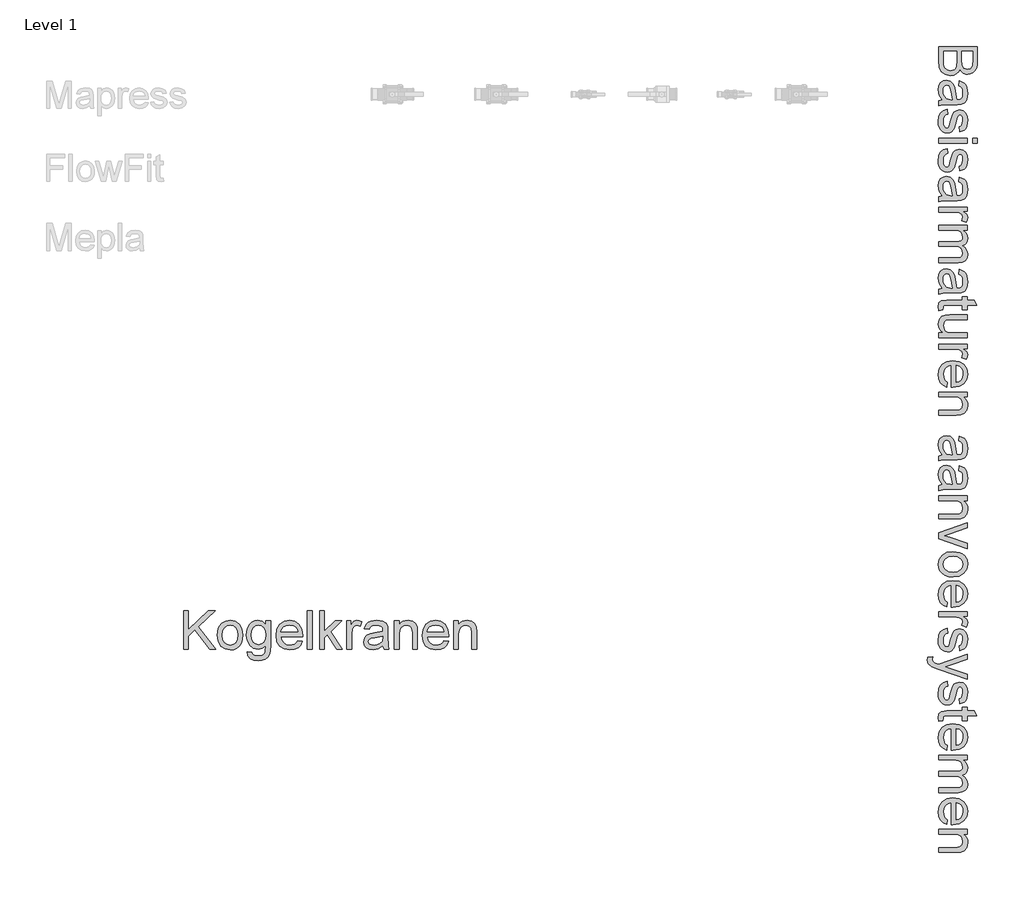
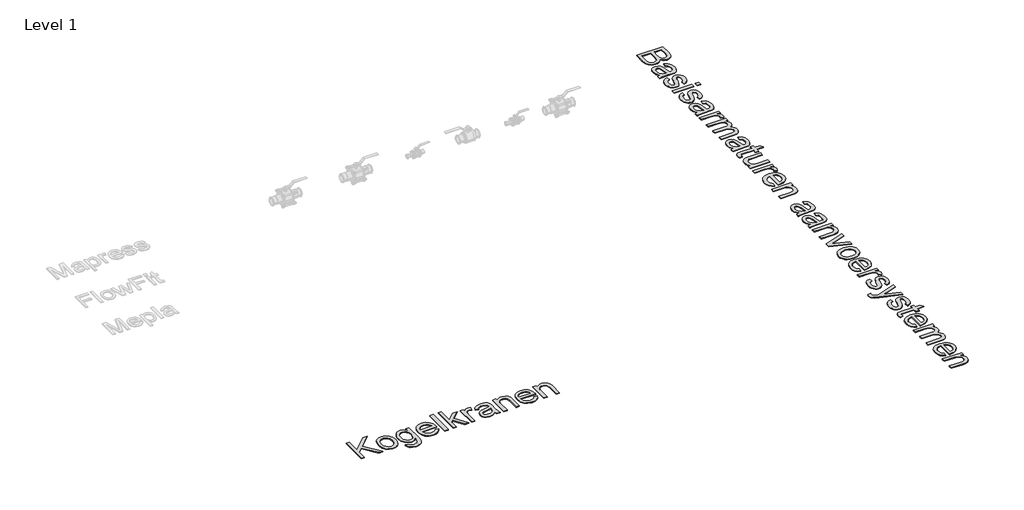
# One storey, part 3 of 4: 2 proxies.
"""IFC4 building model written with IfcOpenShell, lengths in millimetres."""

from ifc_helpers import new_model, si_unit, origin, origin_with_axes, place, context, project, spatial, polyline, outline, extrude, element, save

model = new_model("IFC4")

# Units and contexts
model_context = context("Model", 3, world=origin())
ifc_project = project(units=[si_unit("LENGTHUNIT", "METRE", prefix="MILLI")], contexts=[model_context])

# Site, building, storey
site = spatial("IfcSite", under=ifc_project)
building = spatial("IfcBuilding", under=site)
storey = spatial("IfcBuildingStorey", under=building, Name="Level 1", Elevation=0.0)

# Proxies
placement = place(None, origin())
element("IfcBuildingElementProxy", 1, Name="medium", ObjectType="medium", at=placement, inside=storey, context=model_context, shape_type="SweptSolid", body=[
    extrude(outline(polyline([(7081.8489506, 6039.1098786), (7282.7615709, 6039.1098786), (7282.7615709, 5962.4432708), (7281.2839116, 5941.3575011), (7276.8509335, 5924.8947818), (7269.3522722, 5912.2764294), (7258.677563, 5902.7237602), (7246.1205242, 5896.7088896), (7232.9748742, 5894.7039328), (7220.877688, 5896.3900586), (7209.504003, 5901.448436), (7199.552795, 5909.9158533), (7191.7230399, 5921.8290985), (7184.2918235, 5907.5981967), (7172.9855836, 5897.082903), (7158.5523466, 5890.5897858), (7141.7401394, 5888.4254134), (7114.737601, 5894.3360508), (7095.5096354, 5908.9777542), (7085.3070414, 5930.8299447), (7081.8489506, 5963.031882), (7081.8489506, 6039.1098786)]), holes=[polyline([(7106.9630282, 6013.9958011), (7106.9630282, 5962.4923217), (7107.9440468, 5943.8529673), (7113.4132258, 5928.0830924), (7124.572313, 5917.6352438), (7141.4948848, 5913.5394909), (7161.017156, 5918.3464823), (7168.0743589, 5924.6433958), (7172.6667525, 5933.9201534), (7176.0267414, 5964.9448684), (7176.0267414, 6013.9958011), (7106.9630282, 6013.9958011)]), polyline([(7201.1408189, 6013.9958011), (7201.1408189, 5968.133179), (7203.29906, 5941.3513697), (7212.5942117, 5925.2381384), (7228.9526978, 5919.8180103), (7245.3357093, 5924.8702564), (7255.0232685, 5939.3402815), (7257.6474934, 5971.6157952), (7257.6474934, 6013.9958011), (7201.1408189, 6013.9958011)])]), origin_with_axes(), (0.0, 0.0, 1.0), 5.0),
    extrude(outline(polyline([(7100.6845088, 5762.8550257), (7083.6638351, 5787.2088138), (7078.7096909, 5814.1132503), (7081.6895351, 5835.1009182), (7090.6290676, 5850.5826188), (7104.2039132, 5860.1291566), (7121.0896968, 5863.3113358), (7140.9553245, 5858.5043444), (7155.3762987, 5845.8737293), (7163.6168554, 5828.2889699), (7167.3937772, 5806.5594067), (7176.0267414, 5763.0021785), (7181.6185477, 5762.8550257), (7192.8266858, 5764.5840711), (7200.1598003, 5769.7712072), (7205.6044538, 5781.3717528), (7207.4193383, 5797.5340351), (7206.2114591, 5812.4945696), (7202.5878214, 5822.9424182), (7195.8862378, 5830.0670662), (7185.4445205, 5835.0579986), (7188.5837802, 5860.1720761), (7213.1092465, 5849.3072945), (7221.3620659, 5840.048931), (7227.4811698, 5827.4305786), (7232.5334159, 5794.2966735), (7228.069781, 5763.8605698), (7216.8616429, 5746.6682179), (7199.8164437, 5738.9672215), (7177.8416259, 5737.7409481), (7146.5961818, 5737.7409481), (7102.9653771, 5736.4656239), (7081.8489506, 5731.4624288), (7081.8489506, 5756.5765063), (7100.6845088, 5762.8550257)]), holes=[polyline([(7150.9126639, 5762.8550257), (7143.2116674, 5803.3710961), (7139.14044, 5824.9780319), (7132.5185641, 5834.763693), (7122.8555304, 5838.1972583), (7115.3875259, 5836.3271915), (7109.268422, 5830.7169911), (7105.1849319, 5821.4892843), (7103.8237685, 5808.7666987), (7105.3259533, 5795.2776922), (7109.8325077, 5783.3583155), (7124.3761093, 5766.975304), (7143.8002786, 5763.0021785), (7150.9126639, 5762.8550257)])]), origin_with_axes(), (0.0, 0.0, 1.0), 5.0),
    extrude(outline(polyline([(7125.7985863, 5712.6268706), (7128.937846, 5687.5127931), (7118.1956917, 5683.5519303), (7110.2984916, 5675.887722), (7105.4424492, 5664.4711174), (7103.8237685, 5649.2530656), (7105.3075592, 5634.2189547), (7109.7589313, 5623.6484787), (7116.209129, 5617.3944848), (7123.6893962, 5615.3098202), (7130.0905429, 5617.4067475), (7134.9711107, 5623.6975296), (7142.1325469, 5649.5473712), (7154.4198055, 5687.3656403), (7160.5940917, 5696.9367035), (7168.7672034, 5703.8712791), (7189.0252386, 5709.4876109), (7207.7381694, 5704.9749251), (7222.0365163, 5692.663141), (7229.4677326, 5676.6970624), (7232.5334159, 5655.0901266), (7227.6037971, 5624.5313955), (7221.8035243, 5613.1025282), (7214.2619434, 5605.1072262), (7191.7230399, 5596.474262), (7188.5837802, 5621.5883395), (7196.4871117, 5624.7582561), (7202.4406686, 5631.0306441), (7207.4193383, 5653.1280893), (7206.2298532, 5667.5490635), (7202.6613978, 5677.1630463), (7197.5110499, 5682.5709116), (7191.5758871, 5684.3735334), (7184.2672981, 5681.3814265), (7178.7245427, 5672.0126983), (7173.377991, 5650.381237), (7161.5567162, 5613.5194611), (7148.1658116, 5596.4006856), (7138.3188369, 5591.7469784), (7126.3381466, 5590.1957426), (7113.9527861, 5592.0167585), (7102.3031896, 5597.4798061), (7092.3029307, 5606.376419), (7084.865583, 5618.4981308), (7080.2486639, 5633.1398342), (7078.7096909, 5649.5964221), (7081.6772724, 5674.9189661), (7090.5800166, 5693.398905), (7105.3198219, 5705.7352146), (7125.7985863, 5712.6268706)])), origin_with_axes(), (0.0, 0.0, 1.0), 5.0),
    extrude(outline(polyline([(7257.6474934, 5561.9424054), (7282.7615709, 5561.9424054), (7282.7615709, 5536.8283278), (7257.6474934, 5536.8283278), (7257.6474934, 5561.9424054)])), origin_with_axes(), (0.0, 0.0, 1.0), 5.0),
    extrude(outline(polyline([(7081.8489506, 5561.9424054), (7229.3941562, 5561.9424054), (7229.3941562, 5536.8283278), (7081.8489506, 5536.8283278), (7081.8489506, 5561.9424054)])), origin_with_axes(), (0.0, 0.0, 1.0), 5.0),
    extrude(outline(polyline([(7125.7985863, 5508.5749906), (7128.937846, 5483.4609131), (7118.1956917, 5479.5000503), (7110.2984916, 5471.835842), (7105.4424492, 5460.4192374), (7103.8237685, 5445.2011856), (7105.3075592, 5430.1670747), (7109.7589313, 5419.5965987), (7116.209129, 5413.3426048), (7123.6893962, 5411.2579402), (7130.0905429, 5413.3548675), (7134.9711107, 5419.6456496), (7142.1325469, 5445.4954912), (7154.4198055, 5483.3137603), (7160.5940917, 5492.8848235), (7168.7672034, 5499.8193991), (7189.0252386, 5505.4357309), (7207.7381694, 5500.9230451), (7222.0365163, 5488.611261), (7229.4677326, 5472.6451824), (7232.5334159, 5451.0382466), (7227.6037971, 5420.4795155), (7221.8035243, 5409.0506482), (7214.2619434, 5401.0553462), (7191.7230399, 5392.422382), (7188.5837802, 5417.5364595), (7196.4871117, 5420.7063761), (7202.4406686, 5426.9787641), (7207.4193383, 5449.0762093), (7206.2298532, 5463.4971835), (7202.6613978, 5473.1111663), (7197.5110499, 5478.5190316), (7191.5758871, 5480.3216534), (7184.2672981, 5477.3295465), (7178.7245427, 5467.9608183), (7173.377991, 5446.329357), (7161.5567162, 5409.4675811), (7148.1658116, 5392.3488056), (7138.3188369, 5387.6950984), (7126.3381466, 5386.1438626), (7113.9527861, 5387.9648785), (7102.3031896, 5393.4279261), (7092.3029307, 5402.324539), (7084.865583, 5414.4462508), (7080.2486639, 5429.0879542), (7078.7096909, 5445.5445421), (7081.6772724, 5470.8670861), (7090.5800166, 5489.347025), (7105.3198219, 5501.6833346), (7125.7985863, 5508.5749906)])), origin_with_axes(), (0.0, 0.0, 1.0), 5.0),
    extrude(outline(polyline([(7100.6845088, 5263.7127346), (7083.6638351, 5288.0665227), (7078.7096909, 5314.9709593), (7081.6895351, 5335.9586271), (7090.6290676, 5351.4403277), (7104.2039132, 5360.9868655), (7121.0896968, 5364.1690448), (7140.9553245, 5359.3620534), (7155.3762987, 5346.7314382), (7163.6168554, 5329.1466788), (7167.3937772, 5307.4171157), (7176.0267414, 5263.8598874), (7181.6185477, 5263.7127346), (7192.8266858, 5265.44178), (7200.1598003, 5270.6289161), (7205.6044538, 5282.2294617), (7207.4193383, 5298.391744), (7206.2114591, 5313.3522785), (7202.5878214, 5323.8001272), (7195.8862378, 5330.9247751), (7185.4445205, 5335.9157075), (7188.5837802, 5361.0297851), (7213.1092465, 5350.1650035), (7221.3620659, 5340.9066399), (7227.4811698, 5328.2882875), (7232.5334159, 5295.1543825), (7228.069781, 5264.7182787), (7216.8616429, 5247.5259268), (7199.8164437, 5239.8249304), (7177.8416259, 5238.5986571), (7146.5961818, 5238.5986571), (7102.9653771, 5237.3233328), (7081.8489506, 5232.3201377), (7081.8489506, 5257.4342152), (7100.6845088, 5263.7127346)]), holes=[polyline([(7150.9126639, 5263.7127346), (7143.2116674, 5304.228805), (7139.14044, 5325.8357409), (7132.5185641, 5335.621402), (7122.8555304, 5339.0549672), (7115.3875259, 5337.1849004), (7109.268422, 5331.5747), (7105.1849319, 5322.3469933), (7103.8237685, 5309.6244076), (7105.3259533, 5296.1354011), (7109.8325077, 5284.2160245), (7124.3761093, 5267.833013), (7143.8002786, 5263.8598874), (7150.9126639, 5263.7127346)])]), origin_with_axes(), (0.0, 0.0, 1.0), 5.0),
    extrude(outline(polyline([(7081.8489506, 5204.0668005), (7229.3941562, 5204.0668005), (7229.3941562, 5182.0919826), (7207.5664911, 5182.0919826), (7227.6773735, 5166.493786), (7232.5334159, 5150.7974876), (7230.595904, 5138.2894997), (7224.7833685, 5125.5853082), (7202.2689904, 5133.9730177), (7207.4193383, 5151.6313534), (7202.4651941, 5165.8315984), (7188.730933, 5174.8814955), (7159.3984752, 5178.9527229), (7081.8489506, 5178.9527229), (7081.8489506, 5204.0668005)])), origin_with_axes(), (0.0, 0.0, 1.0), 5.0),
    extrude(outline(polyline([(7081.8489506, 5109.8890097), (7229.3941562, 5109.8890097), (7229.3941562, 5084.7749322), (7205.1139445, 5084.7749322), (7216.2669003, 5077.2210885), (7225.0040977, 5067.5090039), (7230.6510863, 5055.969772), (7232.5334159, 5042.9344866), (7230.6142981, 5028.9672335), (7224.8569449, 5017.7713581), (7215.6415009, 5009.4081741), (7203.3481109, 5003.9389951), (7216.1166818, 4994.7848648), (7225.2370896, 4984.3431475), (7230.7093343, 4972.6138432), (7232.5334159, 4959.5969519), (7229.4983894, 4940.7184742), (7220.39331, 4926.7573525), (7204.972923, 4918.1305197), (7182.9919738, 4915.2549088), (7081.8489506, 4915.2549088), (7081.8489506, 4940.3689863), (7172.2007686, 4940.3689863), (7193.1700424, 4942.6989056), (7203.4952637, 4951.1356661), (7207.4193383, 4965.4830639), (7204.905478, 4979.0885663), (7197.3638971, 4990.1802085), (7184.2795608, 4997.5562425), (7165.1374343, 5000.0149205), (7081.8489506, 5000.0149205), (7081.8489506, 5025.128998), (7174.9966718, 5025.128998), (7189.1969168, 5026.5821319), (7199.3259344, 5030.9415335), (7205.3959873, 5038.6118731), (7207.4193383, 5049.9978209), (7202.0237357, 5068.5881244), (7195.3773343, 5075.9457643), (7186.2293354, 5080.9489594), (7156.2592155, 5084.7749322), (7081.8489506, 5084.7749322), (7081.8489506, 5109.8890097)])), origin_with_axes(), (0.0, 0.0, 1.0), 5.0),
    extrude(outline(polyline([(7100.6845088, 4783.4060017), (7083.6638351, 4807.7597898), (7078.7096909, 4834.6642264), (7081.6895351, 4855.6518942), (7090.6290676, 4871.1335948), (7104.2039132, 4880.6801326), (7121.0896968, 4883.8623119), (7140.9553245, 4879.0553205), (7155.3762987, 4866.4247053), (7163.6168554, 4848.8399459), (7167.3937772, 4827.1103828), (7176.0267414, 4783.5531545), (7181.6185477, 4783.4060017), (7192.8266858, 4785.1350471), (7200.1598003, 4790.3221832), (7205.6044538, 4801.9227288), (7207.4193383, 4818.0850111), (7206.2114591, 4833.0455456), (7202.5878214, 4843.4933943), (7195.8862378, 4850.6180422), (7185.4445205, 4855.6089746), (7188.5837802, 4880.7230522), (7213.1092465, 4869.8582706), (7221.3620659, 4860.599907), (7227.4811698, 4847.9815546), (7232.5334159, 4814.8476496), (7228.069781, 4784.4115458), (7216.8616429, 4767.2191939), (7199.8164437, 4759.5181975), (7177.8416259, 4758.2919242), (7146.5961818, 4758.2919242), (7102.9653771, 4757.0165999), (7081.8489506, 4752.0134048), (7081.8489506, 4777.1274823), (7100.6845088, 4783.4060017)]), holes=[polyline([(7150.9126639, 4783.4060017), (7143.2116674, 4823.9220721), (7139.14044, 4845.529008), (7132.5185641, 4855.314669), (7122.8555304, 4858.7482343), (7115.3875259, 4856.8781675), (7109.268422, 4851.2679671), (7105.1849319, 4842.0402604), (7103.8237685, 4829.3176747), (7105.3259533, 4815.8286682), (7109.8325077, 4803.9092916), (7124.3761093, 4787.5262801), (7143.8002786, 4783.5531545), (7150.9126639, 4783.4060017)])]), origin_with_axes(), (0.0, 0.0, 1.0), 5.0),
    extrude(outline(polyline([(7102.7936989, 4670.3926528), (7081.1131866, 4667.2533931), (7078.7096909, 4686.0399003), (7082.8790202, 4707.0827505), (7093.8173782, 4717.5796501), (7122.3159701, 4720.6208079), (7204.2800786, 4720.6208079), (7204.2800786, 4739.456366), (7229.3941562, 4739.456366), (7229.3941562, 4720.6208079), (7265.250388, 4720.6208079), (7280.0147187, 4695.5067303), (7229.3941562, 4695.5067303), (7229.3941562, 4670.3926528), (7204.2800786, 4670.3926528), (7204.2800786, 4695.5067303), (7123.0517341, 4695.5067303), (7110.1022879, 4694.1823552), (7105.5160256, 4689.8903986), (7103.8237685, 4681.3310108), (7102.7936989, 4670.3926528)])), origin_with_axes(), (0.0, 0.0, 1.0), 5.0),
    extrude(outline(polyline([(7081.8489506, 4551.1007845), (7107.2082828, 4551.1007845), (7094.7401489, 4560.1874698), (7085.8343389, 4570.7702085), (7080.4908529, 4582.8490007), (7078.7096909, 4596.4238463), (7083.7128861, 4620.0418704), (7096.2699248, 4636.3267801), (7114.7621265, 4643.8070473), (7138.1103704, 4645.2785753), (7229.3941562, 4645.2785753), (7229.3941562, 4620.1644977), (7149.9316452, 4620.1644977), (7124.3270583, 4618.6439188), (7115.7860647, 4614.983493), (7109.2929475, 4608.7111049), (7103.8237685, 4589.9981741), (7109.4155748, 4569.0289004), (7116.0190566, 4560.6718477), (7124.6458894, 4555.1720119), (7152.6294465, 4551.1007845), (7229.3941562, 4551.1007845), (7229.3941562, 4525.986707), (7081.8489506, 4525.986707), (7081.8489506, 4551.1007845)])), origin_with_axes(), (0.0, 0.0, 1.0), 5.0),
    extrude(outline(polyline([(7081.8489506, 4491.4548504), (7229.3941562, 4491.4548504), (7229.3941562, 4469.4800325), (7207.5664911, 4469.4800325), (7227.6773735, 4453.8818359), (7232.5334159, 4438.1855375), (7230.595904, 4425.6775496), (7224.7833685, 4412.973358), (7202.2689904, 4421.3610675), (7207.4193383, 4439.0194033), (7202.4651941, 4453.2196483), (7188.730933, 4462.2695454), (7159.3984752, 4466.3407728), (7081.8489506, 4466.3407728), (7081.8489506, 4491.4548504)])), origin_with_axes(), (0.0, 0.0, 1.0), 5.0),
    extrude(outline(polyline([(7125.7985863, 4293.9757953), (7122.6593266, 4269.3522271), (7104.1058113, 4278.2243146), (7090.2366601, 4292.38164), (7081.5914332, 4311.5053724), (7078.7096909, 4335.2766807), (7083.6822292, 4364.7440285), (7098.5998441, 4387.4178221), (7122.4937797, 4401.8755845), (7154.3952801, 4406.6948387), (7187.3697696, 4401.8265336), (7212.030126, 4387.2216184), (7227.4075934, 4364.8543931), (7232.5334159, 4336.6991577), (7227.4198561, 4309.4207078), (7212.0791769, 4287.6236996), (7187.4678714, 4273.331484), (7154.5424329, 4268.5674122), (7147.7734042, 4268.714565), (7147.7734042, 4381.5807611), (7128.9746342, 4377.2336222), (7115.1545339, 4367.1352614), (7106.6564598, 4352.5610031), (7103.8237685, 4334.7861713), (7109.0722183, 4310.1626031), (7115.8780352, 4301.0146042), (7125.7985863, 4293.9757953)]), holes=[polyline([(7172.8874817, 4381.5807611), (7172.8874817, 4293.6814897), (7186.155759, 4297.0782668), (7195.6471145, 4303.7369309), (7204.4762824, 4318.3786344), (7207.4193383, 4336.7972596), (7205.0710249, 4353.7259627), (7198.0260847, 4367.7238726), (7187.0448071, 4377.4543514), (7172.8874817, 4381.5807611)])]), origin_with_axes(), (0.0, 0.0, 1.0), 5.0),
    extrude(outline(polyline([(7081.8489506, 4243.4533347), (7229.3941562, 4243.4533347), (7229.3941562, 4218.3392571), (7208.7927644, 4218.3392571), (7219.1792994, 4209.6143225), (7226.598253, 4199.135817), (7231.0496251, 4186.9037406), (7232.5334159, 4172.9180935), (7227.7509499, 4149.2019675), (7215.1939111, 4133.0151597), (7196.726235, 4125.4858415), (7172.4460233, 4124.1614664), (7081.8489506, 4124.1614664), (7081.8489506, 4149.2755439), (7169.0615089, 4149.2755439), (7191.2815815, 4152.1695489), (7203.0292798, 4162.3966684), (7207.4193383, 4179.6380712), (7204.9545289, 4194.3472197), (7197.5601008, 4206.8858643), (7183.2740167, 4215.4759089), (7160.1342392, 4218.3392571), (7081.8489506, 4218.3392571), (7081.8489506, 4243.4533347)])), origin_with_axes(), (0.0, 0.0, 1.0), 5.0),
    extrude(outline(polyline([(7100.6845088, 3916.9703267), (7083.6638351, 3941.3241148), (7078.7096909, 3968.2285513), (7081.6895351, 3989.2162192), (7090.6290676, 4004.6979198), (7104.2039132, 4014.2444576), (7121.0896968, 4017.4266368), (7140.9553245, 4012.6196454), (7155.3762987, 3999.9890303), (7163.6168554, 3982.4042709), (7167.3937772, 3960.6747077), (7176.0267414, 3917.1174795), (7181.6185477, 3916.9703267), (7192.8266858, 3918.6993721), (7200.1598003, 3923.8865082), (7205.6044538, 3935.4870538), (7207.4193383, 3951.6493361), (7206.2114591, 3966.6098706), (7202.5878214, 3977.0577192), (7195.8862378, 3984.1823672), (7185.4445205, 3989.1732996), (7188.5837802, 4014.2873771), (7213.1092465, 4003.4225956), (7221.3620659, 3994.164232), (7227.4811698, 3981.5458796), (7232.5334159, 3948.4119745), (7228.069781, 3917.9758708), (7216.8616429, 3900.7835189), (7199.8164437, 3893.0825225), (7177.8416259, 3891.8562491), (7146.5961818, 3891.8562491), (7102.9653771, 3890.5809249), (7081.8489506, 3885.5777298), (7081.8489506, 3910.6918073), (7100.6845088, 3916.9703267)]), holes=[polyline([(7150.9126639, 3916.9703267), (7143.2116674, 3957.4863971), (7139.14044, 3979.0933329), (7132.5185641, 3988.878994), (7122.8555304, 3992.3125593), (7115.3875259, 3990.4424925), (7109.268422, 3984.8322921), (7105.1849319, 3975.6045853), (7103.8237685, 3962.8819997), (7105.3259533, 3949.3929932), (7109.8325077, 3937.4736165), (7124.3761093, 3921.090605), (7143.8002786, 3917.1174795), (7150.9126639, 3916.9703267)])]), origin_with_axes(), (0.0, 0.0, 1.0), 5.0),
    extrude(outline(polyline([(7100.6845088, 3763.1466018), (7083.6638351, 3787.5003898), (7078.7096909, 3814.4048264), (7081.6895351, 3835.3924943), (7090.6290676, 3850.8741949), (7104.2039132, 3860.4207327), (7121.0896968, 3863.6029119), (7140.9553245, 3858.7959205), (7155.3762987, 3846.1653053), (7163.6168554, 3828.580546), (7167.3937772, 3806.8509828), (7176.0267414, 3763.2937546), (7181.6185477, 3763.1466018), (7192.8266858, 3764.8756471), (7200.1598003, 3770.0627833), (7205.6044538, 3781.6633289), (7207.4193383, 3797.8256112), (7206.2114591, 3812.7861456), (7202.5878214, 3823.2339943), (7195.8862378, 3830.3586423), (7185.4445205, 3835.3495747), (7188.5837802, 3860.4636522), (7213.1092465, 3849.5988706), (7221.3620659, 3840.3405071), (7227.4811698, 3827.7221547), (7232.5334159, 3794.5882496), (7228.069781, 3764.1521459), (7216.8616429, 3746.959794), (7199.8164437, 3739.2587975), (7177.8416259, 3738.0325242), (7146.5961818, 3738.0325242), (7102.9653771, 3736.7572), (7081.8489506, 3731.7540048), (7081.8489506, 3756.8680824), (7100.6845088, 3763.1466018)]), holes=[polyline([(7150.9126639, 3763.1466018), (7143.2116674, 3803.6626722), (7139.14044, 3825.269608), (7132.5185641, 3835.0552691), (7122.8555304, 3838.4888344), (7115.3875259, 3836.6187676), (7109.268422, 3831.0085671), (7105.1849319, 3821.7808604), (7103.8237685, 3809.0582748), (7105.3259533, 3795.5692683), (7109.8325077, 3783.6498916), (7124.3761093, 3767.2668801), (7143.8002786, 3763.2937546), (7150.9126639, 3763.1466018)])]), origin_with_axes(), (0.0, 0.0, 1.0), 5.0),
    extrude(outline(polyline([(7081.8489506, 3703.5006676), (7229.3941562, 3703.5006676), (7229.3941562, 3678.3865901), (7208.7927644, 3678.3865901), (7219.1792994, 3669.6616554), (7226.598253, 3659.1831499), (7231.0496251, 3646.9510736), (7232.5334159, 3632.9654264), (7227.7509499, 3609.2493005), (7215.1939111, 3593.0624927), (7196.726235, 3585.5331745), (7172.4460233, 3584.2087993), (7081.8489506, 3584.2087993), (7081.8489506, 3609.3228769), (7169.0615089, 3609.3228769), (7191.2815815, 3612.2168819), (7203.0292798, 3622.4440013), (7207.4193383, 3639.6854042), (7204.9545289, 3654.3945526), (7197.5601008, 3666.9331973), (7183.2740167, 3675.5232419), (7160.1342392, 3678.3865901), (7081.8489506, 3678.3865901), (7081.8489506, 3703.5006676)])), origin_with_axes(), (0.0, 0.0, 1.0), 5.0),
    extrude(outline(polyline([(7081.8489506, 3513.4773544), (7229.3941562, 3565.3732412), (7229.3941562, 3538.7876356), (7141.0043755, 3507.3459878), (7111.2795102, 3497.8791578), (7139.3366437, 3488.6085315), (7229.3941562, 3456.9706799), (7229.3941562, 3430.3850744), (7081.8489506, 3481.6432991), (7081.8489506, 3513.4773544)])), origin_with_axes(), (0.0, 0.0, 1.0), 5.0),
    extrude(outline(polyline([(7155.6215534, 3414.6887759), (7191.1957423, 3409.2563851), (7205.0189083, 3402.4658966), (7216.1994553, 3392.9592128), (7228.4499257, 3372.8238049), (7232.5334159, 3348.7152715), (7227.5608775, 3322.332001), (7212.6432626, 3301.2584941), (7188.9577935, 3287.4445252), (7157.6816926, 3282.8398689), (7132.3100976, 3284.8754826), (7112.9962929, 3290.9823237), (7098.5323991, 3300.9825826), (7087.7105371, 3314.6984496), (7080.9599025, 3330.9894907), (7078.7096909, 3348.7152715), (7083.6638351, 3375.417373), (7098.5262677, 3396.4663544), (7122.7083776, 3410.1331706), (7155.6215534, 3414.6887759)]), holes=[polyline([(7155.6706043, 3389.5746984), (7132.9416284, 3386.6684306), (7116.7486892, 3377.9496274), (7107.0549987, 3364.8285029), (7103.8237685, 3348.7152715), (7107.0733928, 3332.6756165), (7116.8222656, 3319.5790174), (7133.2298026, 3310.8602142), (7156.4554192, 3307.9539464), (7178.5222076, 3310.8786083), (7194.4944175, 3319.6525938), (7204.1881081, 3332.767587), (7207.4193383, 3348.7152715), (7204.2003709, 3364.8285029), (7194.5434685, 3377.9496274), (7178.3873175, 3386.6684306), (7155.6706043, 3389.5746984)])]), origin_with_axes(), (0.0, 0.0, 1.0), 5.0),
    extrude(outline(polyline([(7125.7985863, 3151.2852674), (7122.6593266, 3126.6616992), (7104.1058113, 3135.5337866), (7090.2366601, 3149.6911121), (7081.5914332, 3168.8148445), (7078.7096909, 3192.5861527), (7083.6822292, 3222.0535005), (7098.5998441, 3244.7272942), (7122.4937797, 3259.1850566), (7154.3952801, 3264.0043107), (7187.3697696, 3259.1360056), (7212.030126, 3244.5310904), (7227.4075934, 3222.1638651), (7232.5334159, 3194.0086298), (7227.4198561, 3166.7301798), (7212.0791769, 3144.9331716), (7187.4678714, 3130.6409561), (7154.5424329, 3125.8768843), (7147.7734042, 3126.0240371), (7147.7734042, 3238.8902332), (7128.9746342, 3234.5430943), (7115.1545339, 3224.4447335), (7106.6564598, 3209.8704751), (7103.8237685, 3192.0956434), (7109.0722183, 3167.4720752), (7115.8780352, 3158.3240762), (7125.7985863, 3151.2852674)]), holes=[polyline([(7172.8874817, 3238.8902332), (7172.8874817, 3150.9909618), (7186.155759, 3154.3877389), (7195.6471145, 3161.046403), (7204.4762824, 3175.6881064), (7207.4193383, 3194.1067316), (7205.0710249, 3211.0354348), (7198.0260847, 3225.0333447), (7187.0448071, 3234.7638235), (7172.8874817, 3238.8902332)])]), origin_with_axes(), (0.0, 0.0, 1.0), 5.0),
    extrude(outline(polyline([(7081.8489506, 3100.7628067), (7229.3941562, 3100.7628067), (7229.3941562, 3078.7879889), (7207.5664911, 3078.7879889), (7227.6773735, 3063.1897923), (7232.5334159, 3047.4934938), (7230.595904, 3034.985506), (7224.7833685, 3022.2813144), (7202.2689904, 3030.6690239), (7207.4193383, 3048.3273597), (7202.4651941, 3062.5276047), (7188.730933, 3071.5775018), (7159.3984752, 3075.6487292), (7081.8489506, 3075.6487292), (7081.8489506, 3100.7628067)])), origin_with_axes(), (0.0, 0.0, 1.0), 5.0),
    extrude(outline(polyline([(7125.7985863, 3016.002795), (7128.937846, 2990.8887175), (7118.1956917, 2986.9278547), (7110.2984916, 2979.2636464), (7105.4424492, 2967.8470419), (7103.8237685, 2952.62899), (7105.3075592, 2937.5948791), (7109.7589313, 2927.0244031), (7116.209129, 2920.7704092), (7123.6893962, 2918.6857446), (7130.0905429, 2920.7826719), (7134.9711107, 2927.0734541), (7142.1325469, 2952.9232956), (7154.4198055, 2990.7415647), (7160.5940917, 3000.3126279), (7168.7672034, 3007.2472035), (7189.0252386, 3012.8635353), (7207.7381694, 3008.3508495), (7222.0365163, 2996.0390654), (7229.4677326, 2980.0729868), (7232.5334159, 2958.466051), (7227.6037971, 2927.9073199), (7221.8035243, 2916.4784526), (7214.2619434, 2908.4831506), (7191.7230399, 2899.8501864), (7188.5837802, 2924.964264), (7196.4871117, 2928.1341805), (7202.4406686, 2934.4065685), (7207.4193383, 2956.5040137), (7206.2298532, 2970.9249879), (7202.6613978, 2980.5389707), (7197.5110499, 2985.946836), (7191.5758871, 2987.7494578), (7184.2672981, 2984.7573509), (7178.7245427, 2975.3886228), (7173.377991, 2953.7571614), (7161.5567162, 2916.8953855), (7148.1658116, 2899.77661), (7138.3188369, 2895.1229028), (7126.3381466, 2893.571667), (7113.9527861, 2895.3926829), (7102.3031896, 2900.8557305), (7092.3029307, 2909.7523435), (7084.865583, 2921.8740552), (7080.2486639, 2936.5157586), (7078.7096909, 2952.9723465), (7081.6772724, 2978.2948905), (7090.5800166, 2996.7748294), (7105.3198219, 3009.111139), (7125.7985863, 3016.002795)])), origin_with_axes(), (0.0, 0.0, 1.0), 5.0),
    extrude(outline(polyline([(7025.3422762, 2865.3183298), (7049.524386, 2868.4575895), (7047.317094, 2855.704347), (7050.0884717, 2843.7849704), (7057.8139936, 2836.4763814), (7076.3061952, 2829.6092508), (7082.3885109, 2827.6472135), (7229.3941562, 2881.0146283), (7229.3941562, 2854.5271246), (7147.4790986, 2826.2247365), (7114.7130755, 2816.365499), (7143.6531258, 2806.5062615), (7229.3941562, 2777.4190584), (7229.3941562, 2751.1277585), (7078.3172835, 2802.484085), (7045.5512604, 2815.8259387), (7027.8438737, 2830.3940657), (7022.2030165, 2849.9653879), (7025.3422762, 2865.3183298)])), origin_with_axes(), (0.0, 0.0, 1.0), 5.0),
    extrude(outline(polyline([(7125.7985863, 2739.7479421), (7128.937846, 2714.6338646), (7118.1956917, 2710.6730018), (7110.2984916, 2703.0087935), (7105.4424492, 2691.5921889), (7103.8237685, 2676.3741371), (7105.3075592, 2661.3400262), (7109.7589313, 2650.7695502), (7116.209129, 2644.5155563), (7123.6893962, 2642.4308917), (7130.0905429, 2644.527819), (7134.9711107, 2650.8186012), (7142.1325469, 2676.6684427), (7154.4198055, 2714.4867118), (7160.5940917, 2724.057775), (7168.7672034, 2730.9923506), (7189.0252386, 2736.6086824), (7207.7381694, 2732.0959966), (7222.0365163, 2719.7842125), (7229.4677326, 2703.8181339), (7232.5334159, 2682.2111981), (7227.6037971, 2651.652467), (7221.8035243, 2640.2235997), (7214.2619434, 2632.2282977), (7191.7230399, 2623.5953335), (7188.5837802, 2648.709411), (7196.4871117, 2651.8793276), (7202.4406686, 2658.1517156), (7207.4193383, 2680.2491608), (7206.2298532, 2694.670135), (7202.6613978, 2704.2841178), (7197.5110499, 2709.6919831), (7191.5758871, 2711.4946049), (7184.2672981, 2708.502498), (7178.7245427, 2699.1337699), (7173.377991, 2677.5023085), (7161.5567162, 2640.6405326), (7148.1658116, 2623.5217571), (7138.3188369, 2618.8680499), (7126.3381466, 2617.3168141), (7113.9527861, 2619.13783), (7102.3031896, 2624.6008776), (7092.3029307, 2633.4974905), (7084.865583, 2645.6192023), (7080.2486639, 2660.2609057), (7078.7096909, 2676.7174936), (7081.6772724, 2702.0400376), (7090.5800166, 2720.5199765), (7105.3198219, 2732.8562861), (7125.7985863, 2739.7479421)])), origin_with_axes(), (0.0, 0.0, 1.0), 5.0),
    extrude(outline(polyline([(7102.7936989, 2535.6960621), (7081.1131866, 2532.5568024), (7078.7096909, 2551.3433097), (7082.8790202, 2572.3861598), (7093.8173782, 2582.8830594), (7122.3159701, 2585.9242172), (7204.2800786, 2585.9242172), (7204.2800786, 2604.7597754), (7229.3941562, 2604.7597754), (7229.3941562, 2585.9242172), (7265.250388, 2585.9242172), (7280.0147187, 2560.8101397), (7229.3941562, 2560.8101397), (7229.3941562, 2535.6960621), (7204.2800786, 2535.6960621), (7204.2800786, 2560.8101397), (7123.0517341, 2560.8101397), (7110.1022879, 2559.4857645), (7105.5160256, 2555.1938079), (7103.8237685, 2546.6344201), (7102.7936989, 2535.6960621)])), origin_with_axes(), (0.0, 0.0, 1.0), 5.0),
    extrude(outline(polyline([(7125.7985863, 2407.2807203), (7122.6593266, 2382.6571521), (7104.1058113, 2391.5292396), (7090.2366601, 2405.686565), (7081.5914332, 2424.8102974), (7078.7096909, 2448.5816057), (7083.6822292, 2478.0489535), (7098.5998441, 2500.7227471), (7122.4937797, 2515.1805095), (7154.3952801, 2519.9997637), (7187.3697696, 2515.1314586), (7212.030126, 2500.5265434), (7227.4075934, 2478.1593181), (7232.5334159, 2450.0040827), (7227.4198561, 2422.7256328), (7212.0791769, 2400.9286246), (7187.4678714, 2386.636409), (7154.5424329, 2381.8723372), (7147.7734042, 2382.01949), (7147.7734042, 2494.8856861), (7128.9746342, 2490.5385472), (7115.1545339, 2480.4401865), (7106.6564598, 2465.8659281), (7103.8237685, 2448.0910963), (7109.0722183, 2423.4675281), (7115.8780352, 2414.3195292), (7125.7985863, 2407.2807203)]), holes=[polyline([(7172.8874817, 2494.8856861), (7172.8874817, 2406.9864147), (7186.155759, 2410.3831918), (7195.6471145, 2417.0418559), (7204.4762824, 2431.6835594), (7207.4193383, 2450.1021846), (7205.0710249, 2467.0308877), (7198.0260847, 2481.0287976), (7187.0448071, 2490.7592764), (7172.8874817, 2494.8856861)])]), origin_with_axes(), (0.0, 0.0, 1.0), 5.0),
    extrude(outline(polyline([(7081.8489506, 2356.7582597), (7229.3941562, 2356.7582597), (7229.3941562, 2331.6441821), (7205.1139445, 2331.6441821), (7216.2669003, 2324.0903385), (7225.0040977, 2314.3782538), (7230.6510863, 2302.8390219), (7232.5334159, 2289.8037366), (7230.6142981, 2275.8364835), (7224.8569449, 2264.6406081), (7215.6415009, 2256.2774241), (7203.3481109, 2250.8082451), (7216.1166818, 2241.6541147), (7225.2370896, 2231.2123975), (7230.7093343, 2219.4830932), (7232.5334159, 2206.4662019), (7229.4983894, 2187.5877242), (7220.39331, 2173.6266025), (7204.972923, 2164.9997697), (7182.9919738, 2162.1241588), (7081.8489506, 2162.1241588), (7081.8489506, 2187.2382363), (7172.2007686, 2187.2382363), (7193.1700424, 2189.5681556), (7203.4952637, 2198.004916), (7207.4193383, 2212.3523138), (7204.905478, 2225.9578163), (7197.3638971, 2237.0494584), (7184.2795608, 2244.4254924), (7165.1374343, 2246.8841704), (7081.8489506, 2246.8841704), (7081.8489506, 2271.998248), (7174.9966718, 2271.998248), (7189.1969168, 2273.4513819), (7199.3259344, 2277.8107835), (7205.3959873, 2285.4811231), (7207.4193383, 2296.8670709), (7202.0237357, 2315.4573743), (7195.3773343, 2322.8150143), (7186.2293354, 2327.8182094), (7156.2592155, 2331.6441821), (7081.8489506, 2331.6441821), (7081.8489506, 2356.7582597)])), origin_with_axes(), (0.0, 0.0, 1.0), 5.0),
    extrude(outline(polyline([(7125.7985863, 2021.1517782), (7122.6593266, 1996.52821), (7104.1058113, 2005.4002974), (7090.2366601, 2019.5576229), (7081.5914332, 2038.6813553), (7078.7096909, 2062.4526635), (7083.6822292, 2091.9200113), (7098.5998441, 2114.593805), (7122.4937797, 2129.0515674), (7154.3952801, 2133.8708215), (7187.3697696, 2129.0025165), (7212.030126, 2114.3976012), (7227.4075934, 2092.0303759), (7232.5334159, 2063.8751406), (7227.4198561, 2036.5966906), (7212.0791769, 2014.7996824), (7187.4678714, 2000.5074669), (7154.5424329, 1995.7433951), (7147.7734042, 1995.8905479), (7147.7734042, 2108.756744), (7128.9746342, 2104.4096051), (7115.1545339, 2094.3112443), (7106.6564598, 2079.7369859), (7103.8237685, 2061.9621542), (7109.0722183, 2037.338586), (7115.8780352, 2028.190587), (7125.7985863, 2021.1517782)]), holes=[polyline([(7172.8874817, 2108.756744), (7172.8874817, 2020.8574726), (7186.155759, 2024.2542497), (7195.6471145, 2030.9129138), (7204.4762824, 2045.5546172), (7207.4193383, 2063.9732424), (7205.0710249, 2080.9019456), (7198.0260847, 2094.8998555), (7187.0448071, 2104.6303343), (7172.8874817, 2108.756744)])]), origin_with_axes(), (0.0, 0.0, 1.0), 5.0),
    extrude(outline(polyline([(7081.8489506, 1970.6293175), (7229.3941562, 1970.6293175), (7229.3941562, 1945.51524), (7208.7927644, 1945.51524), (7219.1792994, 1936.7903053), (7226.598253, 1926.3117998), (7231.0496251, 1914.0797235), (7232.5334159, 1900.0940763), (7227.7509499, 1876.3779504), (7215.1939111, 1860.1911426), (7196.726235, 1852.6618244), (7172.4460233, 1851.3374492), (7081.8489506, 1851.3374492), (7081.8489506, 1876.4515268), (7169.0615089, 1876.4515268), (7191.2815815, 1879.3455318), (7203.0292798, 1889.5726513), (7207.4193383, 1906.8140541), (7204.9545289, 1921.5232025), (7197.5601008, 1934.0618472), (7183.2740167, 1942.6518918), (7160.1342392, 1945.51524), (7081.8489506, 1945.51524), (7081.8489506, 1970.6293175)])), origin_with_axes(), (0.0, 0.0, 1.0), 5.0),
])
element("IfcBuildingElementProxy", 2, Name="medium", ObjectType="medium", at=placement, inside=storey, context=model_context, shape_type="SweptSolid", body=[
    extrude(outline(polyline([(3157.1865775, 2906.352399), (3157.1865775, 3107.2650193), (3182.3006551, 3107.2650193), (3182.3006551, 3008.9178992), (3285.3076137, 3107.2650193), (3320.4280815, 3107.2650193), (3233.9512872, 3024.6632486), (3323.5673412, 2906.352399), (3292.8614573, 2906.352399), (3216.1457986, 3007.6916259), (3182.3006551, 2975.4161122), (3182.3006551, 2906.352399), (3157.1865775, 2906.352399)])), origin_with_axes(), (0.0, 0.0, 1.0), 5.0),
    extrude(outline(polyline([(3332.9851203, 2980.1250017), (3338.4175111, 3015.6991907), (3345.2079996, 3029.5223566), (3354.7146835, 3040.7029036), (3374.8500913, 3052.953374), (3398.9586247, 3057.0368642), (3425.3418952, 3052.0643259), (3446.4154021, 3037.146711), (3460.229371, 3013.4612419), (3464.8340273, 2982.1851409), (3462.7984136, 2956.813546), (3456.6915725, 2937.4997412), (3446.6913136, 2923.0358474), (3432.9754466, 2912.2139854), (3416.6844055, 2905.4633508), (3398.9586247, 2903.2131393), (3372.2565233, 2908.1672835), (3351.2075418, 2923.0297161), (3337.5407256, 2947.2118259), (3332.9851203, 2980.1250017)]), holes=[polyline([(3358.0991978, 2980.1740527), (3361.0054656, 2957.4450767), (3369.7242689, 2941.2521376), (3382.8453934, 2931.558447), (3398.9586247, 2928.3272168), (3414.9982797, 2931.5768411), (3428.0948788, 2941.325714), (3436.813682, 2957.733251), (3439.7199498, 2980.9588676), (3436.7952879, 3003.0256559), (3428.0213024, 3018.9978659), (3414.9063092, 3028.6915565), (3398.9586247, 3031.9227867), (3382.8453934, 3028.7038192), (3369.7242689, 3019.0469168), (3361.0054656, 3002.8907659), (3358.0991978, 2980.1740527)])]), origin_with_axes(), (0.0, 0.0, 1.0), 5.0),
    extrude(outline(polyline([(3486.8088452, 2893.7953602), (3511.9229227, 2890.6561005), (3514.6943004, 2882.8079513), (3520.0653776, 2877.4123487), (3530.6235908, 2873.2184939), (3544.4436911, 2871.8205424), (3559.1834964, 2873.4024349), (3570.1463798, 2878.1481127), (3577.7492744, 2885.7510072), (3582.409113, 2895.9045503), (3584.1258956, 2925.1879571), (3566.4430344, 2911.0612885), (3544.8851495, 2906.352399), (3518.9923884, 2911.8338407), (3499.684715, 2928.2781659), (3487.6733679, 2952.3866993), (3483.6695855, 2980.8607657), (3485.4660759, 3001.137195), (3490.8555471, 3019.7826808), (3499.6479268, 3035.5832125), (3511.6531426, 3047.3247795), (3526.4603929, 3054.608843), (3543.6588762, 3057.0368642), (3566.0628897, 3051.5431597), (3584.1258956, 3035.0620463), (3584.1258956, 3053.8976045), (3609.2399732, 3053.8976045), (3609.2399732, 2926.5123323), (3607.5231905, 2897.1001668), (3602.3728426, 2877.7311797), (3593.5007552, 2864.8859667), (3580.618754, 2855.0451234), (3564.0088819, 2848.7911295), (3543.9531818, 2846.7064648), (3520.5865437, 2849.6433894), (3502.1863126, 2858.4541632), (3490.3834319, 2873.1633116), (3486.8088452, 2893.7953602)]), holes=[polyline([(3508.783663, 2982.5775484), (3511.4630702, 2959.5420041), (3519.5012918, 2943.7046842), (3531.5862154, 2934.5260284), (3546.4057284, 2931.4664765), (3561.1148769, 2934.5076343), (3573.2611141, 2943.6311078), (3581.4097003, 2959.2660926), (3584.1258956, 2981.8417844), (3581.3299925, 3003.6142671), (3572.942283, 3019.2921715), (3560.6182362, 3028.7651329), (3546.0133209, 3031.9227867), (3531.6720545, 3028.8141838), (3519.6484446, 3019.4883752), (3511.4998584, 3004.0434628), (3508.783663, 2982.5775484)])]), origin_with_axes(), (0.0, 0.0, 1.0), 5.0),
    extrude(outline(polyline([(3750.2123537, 2950.3020347), (3774.8359219, 2947.162775), (3765.9638345, 2928.6092597), (3751.8065091, 2914.7401085), (3732.6827767, 2906.0948816), (3708.9114684, 2903.2131393), (3679.4441206, 2908.1856776), (3656.770327, 2923.1032925), (3642.3125646, 2946.9972281), (3637.4933104, 2978.8987284), (3642.3616155, 3011.8732179), (3656.9665307, 3036.5335743), (3679.333756, 3051.9110417), (3707.4889914, 3057.0368642), (3734.7674413, 3051.9233045), (3756.5644495, 3036.5826253), (3770.856665, 3011.9713198), (3775.6207369, 2979.0458812), (3775.4735841, 2972.2768525), (3662.607388, 2972.2768525), (3666.9545269, 2953.4780826), (3677.0528876, 2939.6579823), (3691.627146, 2931.1599082), (3709.4019777, 2928.3272168), (3734.0255459, 2933.5756666), (3743.1735449, 2940.3814835), (3750.2123537, 2950.3020347)]), holes=[polyline([(3662.607388, 2997.39093), (3750.5066593, 2997.39093), (3747.1098822, 3010.6592073), (3740.4512181, 3020.1505628), (3725.8095147, 3028.9797307), (3707.3908895, 3031.9227867), (3690.4621864, 3029.5744733), (3676.4642764, 3022.529533), (3666.7337977, 3011.5482555), (3662.607388, 2997.39093)])]), origin_with_axes(), (0.0, 0.0, 1.0), 5.0),
    extrude(outline(polyline([(3800.7348144, 2906.352399), (3800.7348144, 3107.2650193), (3825.8488919, 3107.2650193), (3825.8488919, 2906.352399), (3800.7348144, 2906.352399)])), origin_with_axes(), (0.0, 0.0, 1.0), 5.0),
    extrude(outline(polyline([(3863.5200083, 2906.352399), (3863.5200083, 3107.2650193), (3888.6340858, 3107.2650193), (3888.6340858, 2999.3039164), (3944.9445565, 3053.8976045), (3979.6726169, 3053.8976045), (3922.6754331, 2998.6172034), (3982.8118766, 2906.352399), (3953.4794188, 2906.352399), (3904.6737408, 2981.1550713), (3888.6340858, 2965.6059257), (3888.6340858, 2906.352399), (3863.5200083, 2906.352399)])), origin_with_axes(), (0.0, 0.0, 1.0), 5.0),
    extrude(outline(polyline([(4004.7866944, 2906.352399), (4004.7866944, 3053.8976045), (4026.7615122, 3053.8976045), (4026.7615122, 3032.0699395), (4042.3597088, 3052.1808219), (4058.0560073, 3057.0368642), (4070.5639951, 3055.0993524), (4083.2681867, 3049.2868168), (4074.8804772, 3026.7724387), (4057.2221414, 3031.9227867), (4043.0218964, 3026.9686425), (4033.9719994, 3013.2343813), (4029.9007719, 2983.9019236), (4029.9007719, 2906.352399), (4004.7866944, 2906.352399)])), origin_with_axes(), (0.0, 0.0, 1.0), 5.0),
    extrude(outline(polyline([(4193.1422759, 2925.1879571), (4168.7884878, 2908.1672835), (4141.8840513, 2903.2131393), (4120.8963834, 2906.1929834), (4105.4146828, 2915.1325159), (4095.868145, 2928.7073615), (4092.6859658, 2945.5931451), (4097.4929572, 2965.4587729), (4110.1235724, 2979.8797471), (4127.7083317, 2988.1203038), (4149.4378949, 2991.8972256), (4192.9951231, 3000.5301897), (4193.1422759, 3006.1219961), (4191.4132306, 3017.3301342), (4186.2260944, 3024.6632486), (4174.6255488, 3030.1079021), (4158.4632665, 3031.9227867), (4143.502732, 3030.7149074), (4133.0548834, 3027.0912698), (4125.9302354, 3020.3896861), (4120.939303, 3009.9479688), (4095.8252255, 3013.0872285), (4106.6900071, 3037.6126948), (4115.9483706, 3045.8655143), (4128.566723, 3051.9846181), (4161.7006281, 3057.0368642), (4192.1367318, 3052.5732293), (4209.3290837, 3041.3650912), (4217.0300802, 3024.3198921), (4218.2563535, 3002.3450742), (4218.2563535, 2971.0996301), (4219.5316777, 2927.4688255), (4224.5348729, 2906.352399), (4199.4207953, 2906.352399), (4193.1422759, 2925.1879571)]), holes=[polyline([(4193.1422759, 2975.4161122), (4152.6262055, 2967.7151158), (4131.0192697, 2963.6438884), (4121.2336086, 2957.0220124), (4117.8000433, 2947.3589787), (4119.6701101, 2939.8909742), (4125.2803106, 2933.7718703), (4134.5080173, 2929.6883802), (4147.2306029, 2928.3272168), (4160.7196094, 2929.8294016), (4172.6389861, 2934.3359561), (4189.0219976, 2948.8795576), (4192.9951231, 2968.303727), (4193.1422759, 2975.4161122)])]), origin_with_axes(), (0.0, 0.0, 1.0), 5.0),
    extrude(outline(polyline([(4252.7882101, 2906.352399), (4252.7882101, 3053.8976045), (4277.9022876, 3053.8976045), (4277.9022876, 3033.2962128), (4286.6272223, 3043.6827478), (4297.1057278, 3051.1017013), (4309.3378041, 3055.5530735), (4323.3234513, 3057.0368642), (4347.0395772, 3052.2543983), (4363.226385, 3039.6973595), (4370.7557032, 3021.2296833), (4372.0800784, 2996.9494716), (4372.0800784, 2906.352399), (4346.9660008, 2906.352399), (4346.9660008, 2993.5649573), (4344.0719958, 3015.7850298), (4333.8448764, 3027.5327282), (4316.6034735, 3031.9227867), (4301.8943251, 3029.4579773), (4289.3556804, 3022.0635492), (4280.7656358, 3007.777465), (4277.9022876, 2984.6376875), (4277.9022876, 2906.352399), (4252.7882101, 2906.352399)])), origin_with_axes(), (0.0, 0.0, 1.0), 5.0),
    extrude(outline(polyline([(4509.9131992, 2950.3020347), (4534.5367675, 2947.162775), (4525.66468, 2928.6092597), (4511.5073546, 2914.7401085), (4492.3836222, 2906.0948816), (4468.6123139, 2903.2131393), (4439.1449661, 2908.1856776), (4416.4711725, 2923.1032925), (4402.0134101, 2946.9972281), (4397.1941559, 2978.8987284), (4402.062461, 3011.8732179), (4416.6673762, 3036.5335743), (4439.0346015, 3051.9110417), (4467.1898369, 3057.0368642), (4494.4682868, 3051.9233045), (4516.265295, 3036.5826253), (4530.5575105, 3011.9713198), (4535.3215824, 2979.0458812), (4535.1744296, 2972.2768525), (4422.3082335, 2972.2768525), (4426.6553724, 2953.4780826), (4436.7537331, 2939.6579823), (4451.3279915, 2931.1599082), (4469.1028232, 2928.3272168), (4493.7263915, 2933.5756666), (4502.8743904, 2940.3814835), (4509.9131992, 2950.3020347)]), holes=[polyline([(4422.3082335, 2997.39093), (4510.2075048, 2997.39093), (4506.8107278, 3010.6592073), (4500.1520636, 3020.1505628), (4485.5103602, 3028.9797307), (4467.091735, 3031.9227867), (4450.1630319, 3029.5744733), (4436.1651219, 3022.529533), (4426.4346432, 3011.5482555), (4422.3082335, 2997.39093)])]), origin_with_axes(), (0.0, 0.0, 1.0), 5.0),
    extrude(outline(polyline([(4560.4356599, 2906.352399), (4560.4356599, 3053.8976045), (4585.5497375, 3053.8976045), (4585.5497375, 3033.2962128), (4594.2746721, 3043.6827478), (4604.7531776, 3051.1017013), (4616.9852539, 3055.5530735), (4630.9709011, 3057.0368642), (4654.6870271, 3052.2543983), (4670.8738349, 3039.6973595), (4678.403153, 3021.2296833), (4679.7275282, 2996.9494716), (4679.7275282, 2906.352399), (4654.6134507, 2906.352399), (4654.6134507, 2993.5649573), (4651.7194457, 3015.7850298), (4641.4923262, 3027.5327282), (4624.2509233, 3031.9227867), (4609.5417749, 3029.4579773), (4597.0031302, 3022.0635492), (4588.4130856, 3007.777465), (4585.5497375, 2984.6376875), (4585.5497375, 2906.352399), (4560.4356599, 2906.352399)])), origin_with_axes(), (0.0, 0.0, 1.0), 5.0),
])

save(model, "model.ifc")
